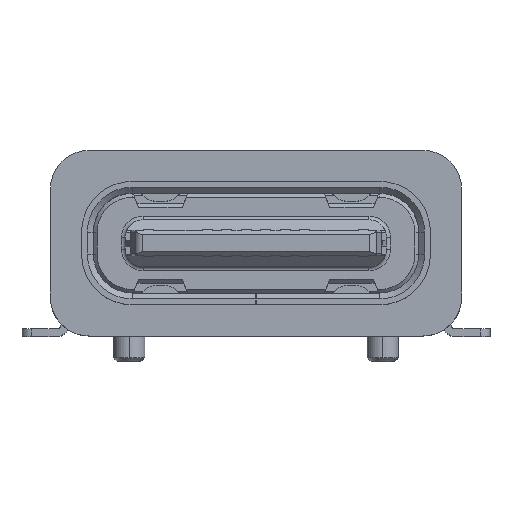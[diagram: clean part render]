
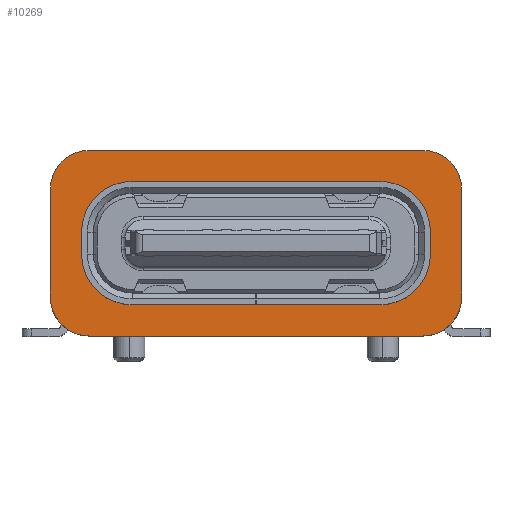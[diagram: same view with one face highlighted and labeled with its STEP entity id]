
A CAD part, top view. The second image highlights one B-rep face of the part: STEP entity #10269.
In plain terms, the highlighted planar face has unit normal (0, 0, 1).
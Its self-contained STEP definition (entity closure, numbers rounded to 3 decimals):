
#185 = LINE ( 'NONE', #1795, #1584 ) ;
#226 = CARTESIAN_POINT ( 'NONE',  ( -5.27, -1.38, 3.3 ) ) ;
#396 = CARTESIAN_POINT ( 'NONE',  ( 4.27, 2.38, 3.3 ) ) ;
#418 = DIRECTION ( 'NONE',  ( 0., 0., 1. ) ) ;
#548 = CIRCLE ( 'NONE', #10369, 1.3 ) ;
#669 = DIRECTION ( 'NONE',  ( 0., 0., 1. ) ) ;
#805 = AXIS2_PLACEMENT_3D ( 'NONE', #16343, #12815, #19106 ) ;
#828 = LINE ( 'NONE', #7769, #25012 ) ;
#1077 = DIRECTION ( 'NONE',  ( 0., 0., 1. ) ) ;
#1355 = VERTEX_POINT ( 'NONE', #21985 ) ;
#1584 = VECTOR ( 'NONE', #2067, 1000. ) ;
#1743 = CARTESIAN_POINT ( 'NONE',  ( 5.27, -1.38, 3.3 ) ) ;
#1795 = CARTESIAN_POINT ( 'NONE',  ( 4.47, -0.28, 3.3 ) ) ;
#2067 = DIRECTION ( 'NONE',  ( 0., 1., 0. ) ) ;
#2538 = DIRECTION ( 'NONE',  ( -1., 0., 0. ) ) ;
#2552 = EDGE_CURVE ( 'NONE', #22513, #19840, #21533, .T. ) ;
#2576 = VECTOR ( 'NONE', #11156, 1000. ) ;
#2685 = CARTESIAN_POINT ( 'NONE',  ( -5.481, -2.475, 3.3 ) ) ;
#2828 = AXIS2_PLACEMENT_3D ( 'NONE', #2685, #418, #20892 ) ;
#2982 = DIRECTION ( 'NONE',  ( -1., 0., 0. ) ) ;
#3054 = EDGE_CURVE ( 'NONE', #7870, #11894, #14192, .T. ) ;
#3266 = CIRCLE ( 'NONE', #16492, 1.3 ) ;
#3322 = VERTEX_POINT ( 'NONE', #23369 ) ;
#3498 = VERTEX_POINT ( 'NONE', #9835 ) ;
#3811 = CARTESIAN_POINT ( 'NONE',  ( 3.17, 1.58, 3.3 ) ) ;
#3926 = CARTESIAN_POINT ( 'NONE',  ( -4.47, 0.28, 3.3 ) ) ;
#4187 = VECTOR ( 'NONE', #10767, 1000. ) ;
#4244 = ORIENTED_EDGE ( 'NONE', *, *, #4433, .T. ) ;
#4274 = CARTESIAN_POINT ( 'NONE',  ( -3.17, -0.28, 3.3 ) ) ;
#4427 = DIRECTION ( 'NONE',  ( 1., 0., 0. ) ) ;
#4433 = EDGE_CURVE ( 'NONE', #22513, #22234, #24020, .T. ) ;
#4499 = EDGE_LOOP ( 'NONE', ( #6118, #14573, #23090, #10887, #9699, #25967, #22162, #14963, #18622 ) ) ;
#4937 = VERTEX_POINT ( 'NONE', #5578 ) ;
#5205 = CARTESIAN_POINT ( 'NONE',  ( 4.27, -2.38, 3.3 ) ) ;
#5427 = ORIENTED_EDGE ( 'NONE', *, *, #7833, .T. ) ;
#5578 = CARTESIAN_POINT ( 'NONE',  ( -3.17, -1.58, 3.3 ) ) ;
#5944 = EDGE_CURVE ( 'NONE', #4937, #1355, #12693, .T. ) ;
#5959 = LINE ( 'NONE', #3811, #17826 ) ;
#6118 = ORIENTED_EDGE ( 'NONE', *, *, #22191, .F. ) ;
#6171 = EDGE_CURVE ( 'NONE', #4937, #11894, #7243, .T. ) ;
#6228 = ORIENTED_EDGE ( 'NONE', *, *, #13307, .T. ) ;
#6539 = DIRECTION ( 'NONE',  ( 0., 1., 0. ) ) ;
#6822 = DIRECTION ( 'NONE',  ( 0., -1., 0. ) ) ;
#6837 = FACE_BOUND ( 'NONE', #4499, .T. ) ;
#7243 = CIRCLE ( 'NONE', #16207, 1.3 ) ;
#7360 = EDGE_CURVE ( 'NONE', #22234, #21464, #17725, .T. ) ;
#7769 = CARTESIAN_POINT ( 'NONE',  ( 0.6, -1.58, 3.3 ) ) ;
#7798 = VERTEX_POINT ( 'NONE', #17700 ) ;
#7833 = EDGE_CURVE ( 'NONE', #16233, #19840, #23101, .T. ) ;
#7870 = VERTEX_POINT ( 'NONE', #8675 ) ;
#7873 = EDGE_CURVE ( 'NONE', #9444, #14271, #10544, .T. ) ;
#8058 = CIRCLE ( 'NONE', #805, 1. ) ;
#8087 = AXIS2_PLACEMENT_3D ( 'NONE', #15373, #25405, #19383 ) ;
#8154 = VECTOR ( 'NONE', #2538, 1000. ) ;
#8282 = VERTEX_POINT ( 'NONE', #9917 ) ;
#8675 = CARTESIAN_POINT ( 'NONE',  ( -4.47, 0.28, 3.3 ) ) ;
#9094 = CARTESIAN_POINT ( 'NONE',  ( -4.27, -1.38, 3.3 ) ) ;
#9444 = VERTEX_POINT ( 'NONE', #14204 ) ;
#9699 = ORIENTED_EDGE ( 'NONE', *, *, #9897, .T. ) ;
#9835 = CARTESIAN_POINT ( 'NONE',  ( 3.17, 1.58, 3.3 ) ) ;
#9897 = EDGE_CURVE ( 'NONE', #7870, #7798, #24756, .T. ) ;
#9917 = CARTESIAN_POINT ( 'NONE',  ( 4.47, -0.28, 3.3 ) ) ;
#10149 = DIRECTION ( 'NONE',  ( 0., 0., -1. ) ) ;
#10269 = ADVANCED_FACE ( 'NONE', ( #6837, #10696 ), #21150, .T. ) ;
#10331 = DIRECTION ( 'NONE',  ( 0., 0., -1. ) ) ;
#10369 = AXIS2_PLACEMENT_3D ( 'NONE', #14588, #10331, #22646 ) ;
#10544 = LINE ( 'NONE', #396, #8154 ) ;
#10618 = EDGE_CURVE ( 'NONE', #3498, #24135, #3266, .T. ) ;
#10696 = FACE_OUTER_BOUND ( 'NONE', #20368, .T. ) ;
#10767 = DIRECTION ( 'NONE',  ( 0., 1., 0. ) ) ;
#10887 = ORIENTED_EDGE ( 'NONE', *, *, #3054, .F. ) ;
#11131 = ORIENTED_EDGE ( 'NONE', *, *, #20282, .F. ) ;
#11145 = ORIENTED_EDGE ( 'NONE', *, *, #2552, .F. ) ;
#11156 = DIRECTION ( 'NONE',  ( 0., 1., 0. ) ) ;
#11894 = VERTEX_POINT ( 'NONE', #22849 ) ;
#12331 = VECTOR ( 'NONE', #4427, 1000. ) ;
#12693 = LINE ( 'NONE', #20610, #12331 ) ;
#12815 = DIRECTION ( 'NONE',  ( 0., 0., 1. ) ) ;
#13080 = VECTOR ( 'NONE', #22385, 1000. ) ;
#13281 = CARTESIAN_POINT ( 'NONE',  ( 5.27, -1.38, 3.3 ) ) ;
#13307 = EDGE_CURVE ( 'NONE', #21464, #9444, #17065, .T. ) ;
#14031 = CARTESIAN_POINT ( 'NONE',  ( -4.27, 2.38, 3.3 ) ) ;
#14192 = LINE ( 'NONE', #3926, #13080 ) ;
#14204 = CARTESIAN_POINT ( 'NONE',  ( 4.27, 2.38, 3.3 ) ) ;
#14221 = DIRECTION ( 'NONE',  ( -1., 0., 0. ) ) ;
#14271 = VERTEX_POINT ( 'NONE', #14031 ) ;
#14401 = CARTESIAN_POINT ( 'NONE',  ( 3.17, 0.28, 3.3 ) ) ;
#14465 = AXIS2_PLACEMENT_3D ( 'NONE', #21058, #18898, #2982 ) ;
#14573 = ORIENTED_EDGE ( 'NONE', *, *, #5944, .F. ) ;
#14588 = CARTESIAN_POINT ( 'NONE',  ( 3.17, -0.28, 3.3 ) ) ;
#14963 = ORIENTED_EDGE ( 'NONE', *, *, #17854, .F. ) ;
#15373 = CARTESIAN_POINT ( 'NONE',  ( 4.27, 1.38, 3.3 ) ) ;
#15391 = DIRECTION ( 'NONE',  ( -1., 0., 0. ) ) ;
#16207 = AXIS2_PLACEMENT_3D ( 'NONE', #4274, #10149, #24740 ) ;
#16233 = VERTEX_POINT ( 'NONE', #16669 ) ;
#16343 = CARTESIAN_POINT ( 'NONE',  ( -4.27, 1.38, 3.3 ) ) ;
#16492 = AXIS2_PLACEMENT_3D ( 'NONE', #14401, #16574, #6539 ) ;
#16498 = VECTOR ( 'NONE', #14221, 1000. ) ;
#16574 = DIRECTION ( 'NONE',  ( 0., 0., -1. ) ) ;
#16669 = CARTESIAN_POINT ( 'NONE',  ( -5.27, -1.38, 3.3 ) ) ;
#16720 = CARTESIAN_POINT ( 'NONE',  ( 4.27, -1.38, 3.3 ) ) ;
#17065 = CIRCLE ( 'NONE', #8087, 1. ) ;
#17700 = CARTESIAN_POINT ( 'NONE',  ( -3.17, 1.58, 3.3 ) ) ;
#17725 = LINE ( 'NONE', #13281, #2576 ) ;
#17784 = EDGE_CURVE ( 'NONE', #3498, #7798, #5959, .T. ) ;
#17826 = VECTOR ( 'NONE', #20258, 1000. ) ;
#17854 = EDGE_CURVE ( 'NONE', #8282, #24135, #185, .T. ) ;
#18554 = LINE ( 'NONE', #226, #4187 ) ;
#18622 = ORIENTED_EDGE ( 'NONE', *, *, #23327, .T. ) ;
#18851 = CARTESIAN_POINT ( 'NONE',  ( -4.27, -2.38, 3.3 ) ) ;
#18898 = DIRECTION ( 'NONE',  ( 0., 0., -1. ) ) ;
#19106 = DIRECTION ( 'NONE',  ( 0., 1., 0. ) ) ;
#19383 = DIRECTION ( 'NONE',  ( 1., 0., 0. ) ) ;
#19754 = AXIS2_PLACEMENT_3D ( 'NONE', #16720, #669, #6822 ) ;
#19806 = ORIENTED_EDGE ( 'NONE', *, *, #7360, .T. ) ;
#19840 = VERTEX_POINT ( 'NONE', #18851 ) ;
#20258 = DIRECTION ( 'NONE',  ( -1., 0., 0. ) ) ;
#20282 = EDGE_CURVE ( 'NONE', #16233, #23831, #18554, .T. ) ;
#20368 = EDGE_LOOP ( 'NONE', ( #23066, #11131, #5427, #11145, #4244, #19806, #6228, #20666 ) ) ;
#20610 = CARTESIAN_POINT ( 'NONE',  ( -3.17, -1.58, 3.3 ) ) ;
#20666 = ORIENTED_EDGE ( 'NONE', *, *, #7873, .T. ) ;
#20710 = CARTESIAN_POINT ( 'NONE',  ( 4.47, 0.28, 3.3 ) ) ;
#20778 = EDGE_CURVE ( 'NONE', #14271, #23831, #8058, .T. ) ;
#20892 = DIRECTION ( 'NONE',  ( 1., 0., 0. ) ) ;
#20983 = AXIS2_PLACEMENT_3D ( 'NONE', #9094, #1077, #15391 ) ;
#21058 = CARTESIAN_POINT ( 'NONE',  ( -3.17, 0.28, 3.3 ) ) ;
#21150 = PLANE ( 'NONE',  #2828 ) ;
#21464 = VERTEX_POINT ( 'NONE', #24038 ) ;
#21533 = LINE ( 'NONE', #5205, #16498 ) ;
#21985 = CARTESIAN_POINT ( 'NONE',  ( 0.6, -1.58, 3.3 ) ) ;
#22092 = DIRECTION ( 'NONE',  ( 1., 0., 0. ) ) ;
#22162 = ORIENTED_EDGE ( 'NONE', *, *, #10618, .T. ) ;
#22191 = EDGE_CURVE ( 'NONE', #1355, #3322, #828, .T. ) ;
#22234 = VERTEX_POINT ( 'NONE', #1743 ) ;
#22385 = DIRECTION ( 'NONE',  ( 0., -1., 0. ) ) ;
#22513 = VERTEX_POINT ( 'NONE', #25271 ) ;
#22646 = DIRECTION ( 'NONE',  ( 1., 0., 0. ) ) ;
#22849 = CARTESIAN_POINT ( 'NONE',  ( -4.47, -0.28, 3.3 ) ) ;
#23066 = ORIENTED_EDGE ( 'NONE', *, *, #20778, .T. ) ;
#23090 = ORIENTED_EDGE ( 'NONE', *, *, #6171, .T. ) ;
#23101 = CIRCLE ( 'NONE', #20983, 1. ) ;
#23327 = EDGE_CURVE ( 'NONE', #8282, #3322, #548, .T. ) ;
#23369 = CARTESIAN_POINT ( 'NONE',  ( 3.17, -1.58, 3.3 ) ) ;
#23831 = VERTEX_POINT ( 'NONE', #25007 ) ;
#24020 = CIRCLE ( 'NONE', #19754, 1. ) ;
#24038 = CARTESIAN_POINT ( 'NONE',  ( 5.27, 1.38, 3.3 ) ) ;
#24135 = VERTEX_POINT ( 'NONE', #20710 ) ;
#24740 = DIRECTION ( 'NONE',  ( 0., -1., 0. ) ) ;
#24756 = CIRCLE ( 'NONE', #14465, 1.3 ) ;
#25007 = CARTESIAN_POINT ( 'NONE',  ( -5.27, 1.38, 3.3 ) ) ;
#25012 = VECTOR ( 'NONE', #22092, 1000. ) ;
#25271 = CARTESIAN_POINT ( 'NONE',  ( 4.27, -2.38, 3.3 ) ) ;
#25405 = DIRECTION ( 'NONE',  ( 0., 0., 1. ) ) ;
#25967 = ORIENTED_EDGE ( 'NONE', *, *, #17784, .F. ) ;
